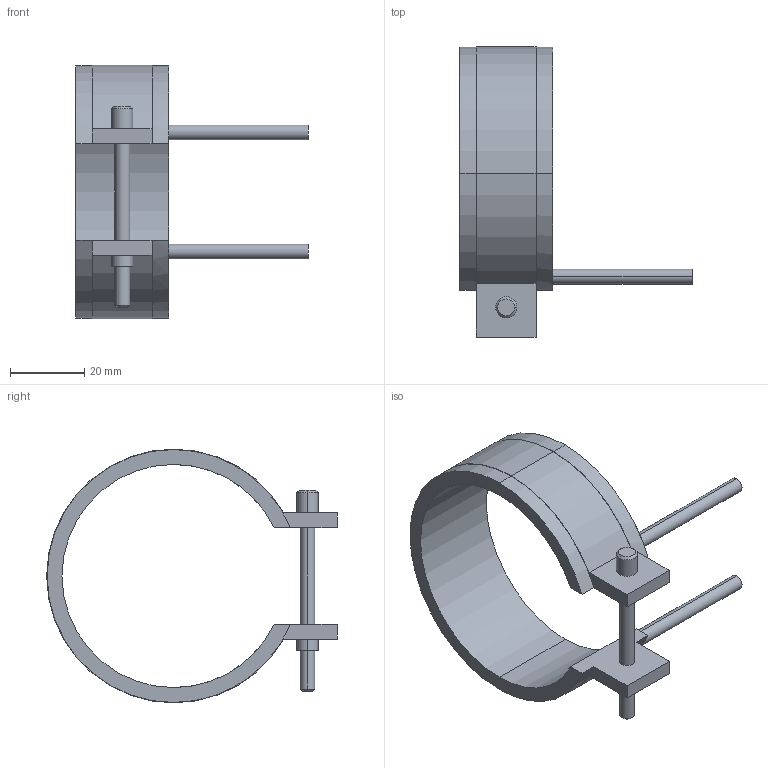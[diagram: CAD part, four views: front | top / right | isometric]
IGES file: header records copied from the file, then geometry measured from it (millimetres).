
Start section: START RECORD GO HERE.
Global section: file name: 14060025.igs; native system: DASSAULT SYSTEMES CATIA V5 R20 - www.3ds.com; preprocessor: CATIA Version 5 Release 20 ; author: Utente; organization: NB04-ASUS; date: 20210401.113202; units: millimetre
Bounding box: 62.5 x 78.1 x 68.2 mm (x, y, z)
Surface area: 12971.4 mm2 (no closed solid volume)
Topology: 0 solids, 0 shells, 45 faces, 232 edges, 232 vertices
Faces by surface type: revolution 28, plane 17
